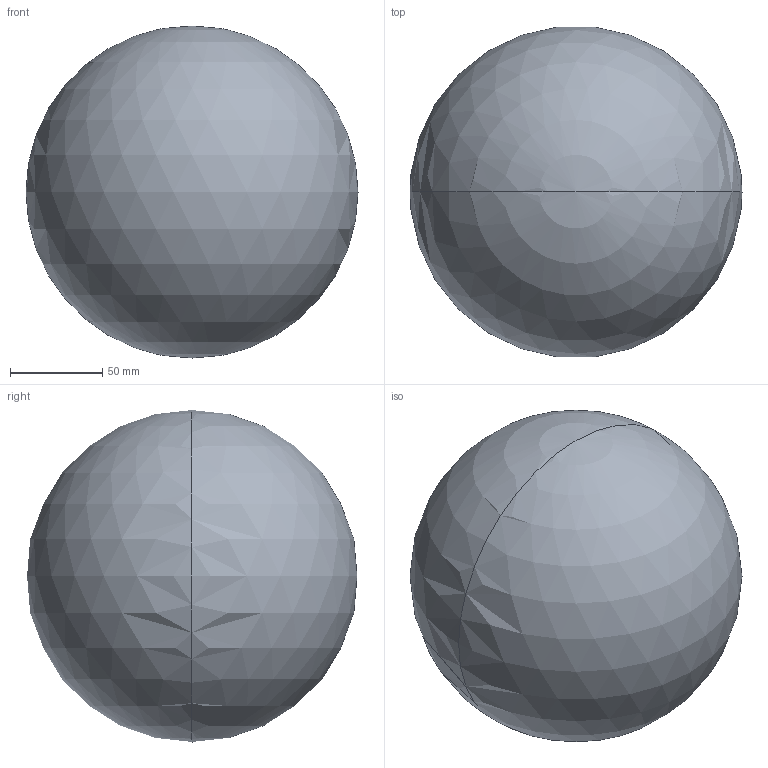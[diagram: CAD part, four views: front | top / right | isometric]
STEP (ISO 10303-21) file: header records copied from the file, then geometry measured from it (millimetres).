
FILE_DESCRIPTION(('STEP AP214'),'1');
FILE_NAME('C:/Documents and Settings/Owner/Desktop/vman3.step','2014-07-05T08:37:45',(' '),('ANSOFT Corporation'),'Spatial InterOp 3D',' ',' ');
FILE_SCHEMA(('automotive_design'));
Length unit declared in the file: millimetre
Products named in the file (3): Circle1; Gaika; Sphere1
Bounding box: 180 x 178.87 x 180 mm (x, y, z)
Volume: 3072553.6 mm3; surface area: 137179.9 mm2
Topology: 2 solids, 3 shells, 31 faces, 70 edges, 46 vertices
Faces by surface type: cylinder 18, plane 11, sphere 2
Entity records: 1192 total; most frequent: DIRECTION 176, CARTESIAN_POINT 146, ORIENTED_EDGE 128, AXIS2_PLACEMENT_3D 76, EDGE_CURVE 66, VERTEX_POINT 46, CIRCLE 42, EDGE_LOOP 40
